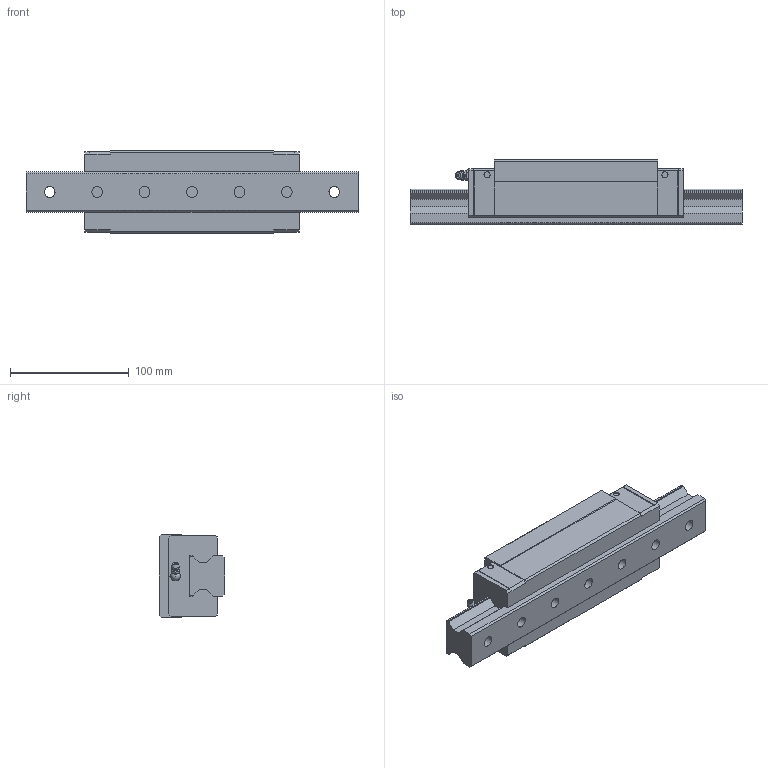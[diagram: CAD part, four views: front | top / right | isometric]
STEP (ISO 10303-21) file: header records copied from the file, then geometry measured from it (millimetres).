
FILE_DESCRIPTION(/* description */ ('STEP AP203'),/* implementation_level */ '2;1');
FILE_NAME(/* name */ 'SRG35SLR1SS-280LH_G20_0_B-M6F_49-6_0_0_0_1',/* time_stamp */ '2024-05-23T10:23:17+02:00',/* author */ ('License CC BY-ND 4.0'),/* organization */ ('CADENAS'),/* preprocessor_version */ 'ST-DEVELOPER v19.3',/* originating_system */ 'PARTsolutions',/* authorisation */ ' ');
FILE_SCHEMA (('CONFIG_CONTROL_DESIGN'));
Length unit declared in the file: millimetre
Products named in the file (4): SRG35SLR1SS-280LH_G20_0_B-M6F_49-6_0_0_0_1; SRG35SLR28020 Track; SRG35SLRSSB-M6F1 Slide25-55; SRG-B-M6F_grease_nipple_joint
Assembly tree (3 placements, depth 2):
  SRG35SLR1SS-280LH_G20_0_B-M6F_49-6_0_0_0_1
    SRG35SLR28020 Track
    SRG35SLRSSB-M6F1 Slide25-55
    SRG-B-M6F_grease_nipple_joint
Bounding box: 280 x 55 x 70 mm (x, y, z)
Volume: 686044.2 mm3; surface area: 106807.6 mm2
Topology: 3 solids, 3 shells, 200 faces, 507 edges, 327 vertices
Faces by surface type: plane 127, cylinder 37, cone 31, sphere 3, torus 2
Full cylindrical faces by diameter (mm): 4.917 x2, 5.2 x4, 6 x1, 6.647 x9, 8 x1, 9 x7, 10.2 x2, 14 x7
Entity records: 5709 total; most frequent: CARTESIAN_POINT 1052, DIRECTION 916, ORIENTED_EDGE 854, EDGE_CURVE 427, VERTEX_POINT 321, AXIS2_PLACEMENT_3D 309, FACE_BOUND 302, LINE 298
